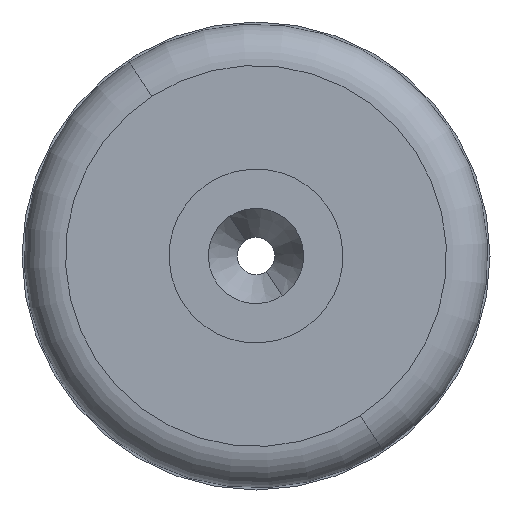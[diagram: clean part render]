
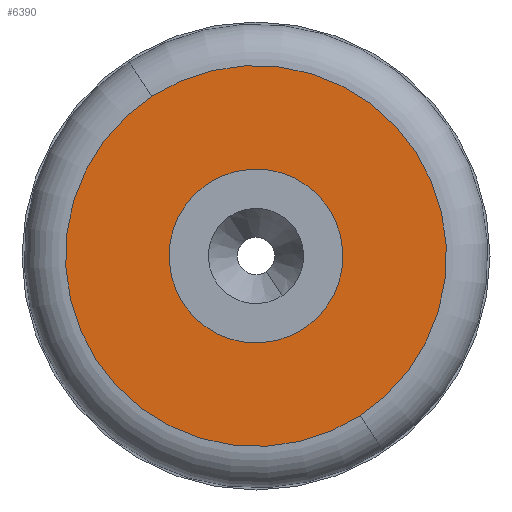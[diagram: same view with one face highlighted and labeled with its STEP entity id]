
A CAD part, front view. The second image highlights one B-rep face of the part: STEP entity #6390.
In plain terms, the highlighted planar face has unit normal (0, -1, 0) as drawn and (0, 1, 0) by its records, which use the part's own axes.
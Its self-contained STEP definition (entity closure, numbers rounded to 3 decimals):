
#303 = FACE_OUTER_BOUND ( 'NONE', #4370, .T. ) ;
#530 = AXIS2_PLACEMENT_3D ( 'NONE', #9761, #555, #2418 ) ;
#555 = DIRECTION ( 'NONE',  ( 0., 1., 0. ) ) ;
#767 = AXIS2_PLACEMENT_3D ( 'NONE', #7885, #2373, #8807 ) ;
#1068 = ORIENTED_EDGE ( 'NONE', *, *, #9653, .T. ) ;
#1121 = CARTESIAN_POINT ( 'NONE',  ( 28., 29., 0. ) ) ;
#1264 = DIRECTION ( 'NONE',  ( 0., 1., 0. ) ) ;
#1311 = EDGE_CURVE ( 'NONE', #1535, #10343, #5140, .T. ) ;
#1535 = VERTEX_POINT ( 'NONE', #5528 ) ;
#2067 = DIRECTION ( 'NONE',  ( 0., -1., 0. ) ) ;
#2373 = DIRECTION ( 'NONE',  ( 0., 1., 0. ) ) ;
#2418 = DIRECTION ( 'NONE',  ( 0., 0., 1. ) ) ;
#2691 = ORIENTED_EDGE ( 'NONE', *, *, #1311, .F. ) ;
#3108 = CIRCLE ( 'NONE', #767, 10.5 ) ;
#3868 = EDGE_CURVE ( 'NONE', #10343, #1535, #3108, .T. ) ;
#3888 = AXIS2_PLACEMENT_3D ( 'NONE', #1121, #2067, #8504 ) ;
#4370 = EDGE_LOOP ( 'NONE', ( #1068, #9080 ) ) ;
#4619 = DIRECTION ( 'NONE',  ( 0., 1., 0. ) ) ;
#5140 = CIRCLE ( 'NONE', #530, 10.5 ) ;
#5464 = ORIENTED_EDGE ( 'NONE', *, *, #3868, .F. ) ;
#5528 = CARTESIAN_POINT ( 'NONE',  ( 0., 29., -10.5 ) ) ;
#5701 = VERTEX_POINT ( 'NONE', #6489 ) ;
#6214 = EDGE_LOOP ( 'NONE', ( #5464, #2691 ) ) ;
#6256 = VERTEX_POINT ( 'NONE', #10992 ) ;
#6390 = ADVANCED_FACE ( 'NONE', ( #303, #9801 ), #7582, .F. ) ;
#6489 = CARTESIAN_POINT ( 'NONE',  ( 0., 29., -23. ) ) ;
#6725 = AXIS2_PLACEMENT_3D ( 'NONE', #6781, #1264, #7730 ) ;
#6765 = EDGE_CURVE ( 'NONE', #6256, #5701, #11493, .T. ) ;
#6781 = CARTESIAN_POINT ( 'NONE',  ( 0., 29., 0. ) ) ;
#7582 = PLANE ( 'NONE',  #3888 ) ;
#7730 = DIRECTION ( 'NONE',  ( 0., 0., -1. ) ) ;
#7885 = CARTESIAN_POINT ( 'NONE',  ( 0., 29., 0. ) ) ;
#8504 = DIRECTION ( 'NONE',  ( 0., 0., -1. ) ) ;
#8759 = CARTESIAN_POINT ( 'NONE',  ( 0., 29., 10.5 ) ) ;
#8807 = DIRECTION ( 'NONE',  ( 0., 0., 1. ) ) ;
#9080 = ORIENTED_EDGE ( 'NONE', *, *, #6765, .T. ) ;
#9653 = EDGE_CURVE ( 'NONE', #5701, #6256, #11737, .T. ) ;
#9761 = CARTESIAN_POINT ( 'NONE',  ( 0., 29., 0. ) ) ;
#9801 = FACE_BOUND ( 'NONE', #6214, .T. ) ;
#9863 = AXIS2_PLACEMENT_3D ( 'NONE', #10114, #4619, #11024 ) ;
#10114 = CARTESIAN_POINT ( 'NONE',  ( 0., 29., 0. ) ) ;
#10343 = VERTEX_POINT ( 'NONE', #8759 ) ;
#10992 = CARTESIAN_POINT ( 'NONE',  ( 0., 29., 23. ) ) ;
#11024 = DIRECTION ( 'NONE',  ( 0., 0., -1. ) ) ;
#11493 = CIRCLE ( 'NONE', #6725, 23. ) ;
#11737 = CIRCLE ( 'NONE', #9863, 23. ) ;
